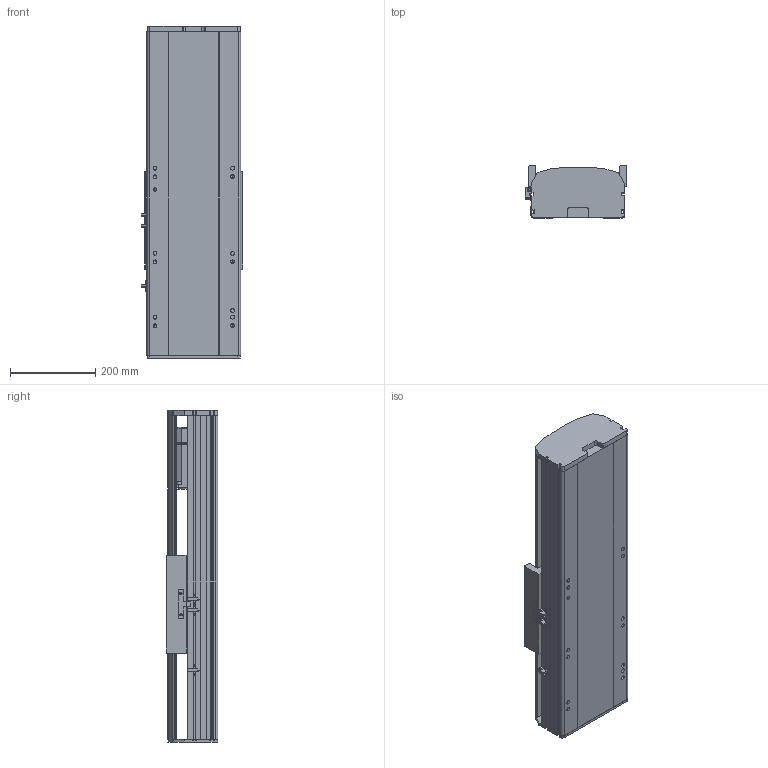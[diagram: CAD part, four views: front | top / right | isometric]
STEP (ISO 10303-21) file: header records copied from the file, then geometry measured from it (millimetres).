
FILE_DESCRIPTION (( 'STEP AP214' ), '1' );
FILE_NAME ('RTH22-XX-150-B-M75B-C4.STEP', '2025-10-24T10:03:53', ( 'Microsoft' ), ( 'Microsoft' ), 'SwSTEP 2.0', 'SolidWorks 2018', '' );
FILE_SCHEMA (( 'AUTOMOTIVE_DESIGN' ));
Length unit declared in the file: millimetre
Products named in the file (9): N_RTH22-GY-013外置感应片^RTH22-XX-XX-B-M75B-C4; N_RTH22-GY-001耜裔^RTH22-XX-XX-B-M75B-C4; N_RTH22-B008萇儂啣^RTH22-XX-XX-B-M75B-C4; N_RTH22-B-011B菁釱^RTH22-XX-XX-B-M75B-C4; N_750W萇儂^RTH22-XX-XX-B-M75B-C4; N_RTH22-E-004-SFS25賑釱^RTH22-XX-XX-B-M75B-C4; N_RTH22-B-007B奻裔^RTH22-XX-XX-B-M75B-C4; N_OMRON EE-SX672 传感器^RTH22-XX-XX-B-M75B-C4; RTH22-XX-150-B-M75B-C4
Assembly tree (10 placements, depth 2):
  RTH22-XX-150-B-M75B-C4
    N_RTH22-B-011B菁釱^RTH22-XX-XX-B-M75B-C4
    N_RTH22-GY-001耜裔^RTH22-XX-XX-B-M75B-C4
    N_750W萇儂^RTH22-XX-XX-B-M75B-C4
    N_RTH22-B008萇儂啣^RTH22-XX-XX-B-M75B-C4
    N_RTH22-B-007B奻裔^RTH22-XX-XX-B-M75B-C4
    N_OMRON EE-SX672 传感器^RTH22-XX-XX-B-M75B-C4  x3
    N_RTH22-GY-013外置感应片^RTH22-XX-XX-B-M75B-C4
    N_RTH22-E-004-SFS25賑釱^RTH22-XX-XX-B-M75B-C4
Bounding box: 238.5 x 122 x 780 mm (x, y, z)
Volume: 12026039 mm3; surface area: 1275231.5 mm2
Topology: 10 solids, 10 shells, 1461 faces, 4000 edges, 2593 vertices
Faces by surface type: plane 746, cylinder 394, bspline 279, cone 42
Entity records: 35459 total; most frequent: CARTESIAN_POINT 11253, ORIENTED_EDGE 5008, DIRECTION 4622, EDGE_CURVE 2504, VERTEX_POINT 1629, LINE 1578, VECTOR 1578, AXIS2_PLACEMENT_3D 1522
